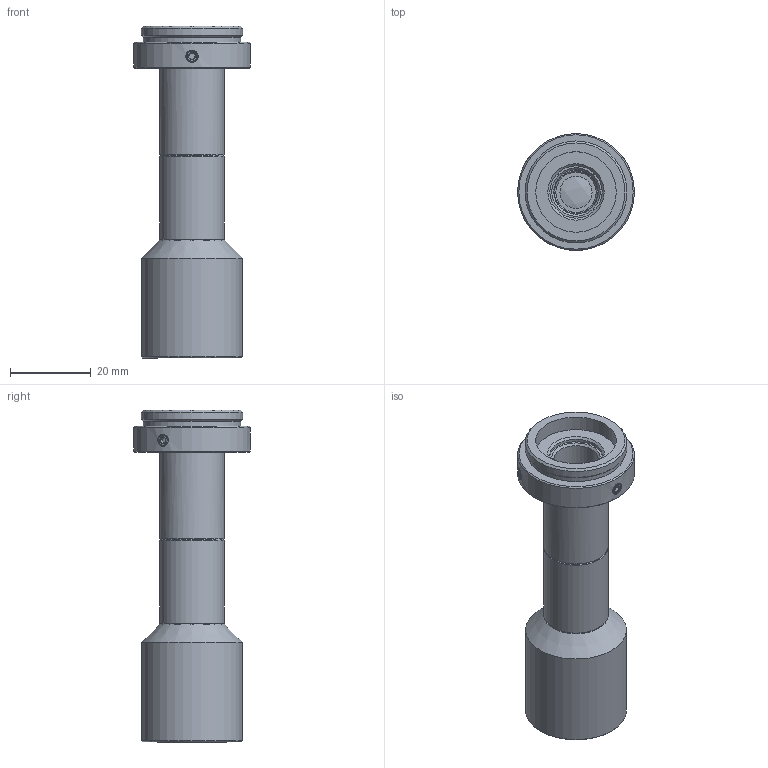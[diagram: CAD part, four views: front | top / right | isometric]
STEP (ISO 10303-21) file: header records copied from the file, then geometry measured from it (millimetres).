
FILE_DESCRIPTION(('STEP AP214'),'1');
FILE_NAME('RTK-1-M65.stp','2026-07-31T06:17:26',(' '),(' '),'Spatial InterOp 3D',' ',' ');
FILE_SCHEMA(('AUTOMOTIVE_DESIGN { 1 0 10303 214 1 1 1 1 }'));
Length unit declared in the file: metre
Products named in the file (2): RTK-1-M65; Component1
Assembly tree (1 placements, depth 2):
  RTK-1-M65
    Component1
Bounding box: 29 x 29 x 82.44 mm (x, y, z)
Volume: 15314 mm3; surface area: 11765.7 mm2
Topology: 1 solids, 1 shells, 136 faces, 309 edges, 204 vertices
Faces by surface type: plane 55, cone 48, cylinder 28, bspline 3, sphere 2
Full cylindrical faces by diameter (mm): 8 x1, 10 x2, 11 x1, 12 x1, 13 x2, 13.4 x2, 13.7 x1, 14.2 x2, 16 x2, 18 x2, 19.5 x2, 20 x2, 20.5 x1, 23 x2, 23.8 x1, 24.12 x1, 25 x1, 25.32 x1, 29 x1
Entity records: 4840 total; most frequent: CARTESIAN_POINT 987, DIRECTION 576, ORIENTED_EDGE 452, AXIS2_PLACEMENT_3D 242, EDGE_CURVE 226, EDGE_LOOP 224, VERTEX_POINT 180, FACE_OUTER_BOUND 167
